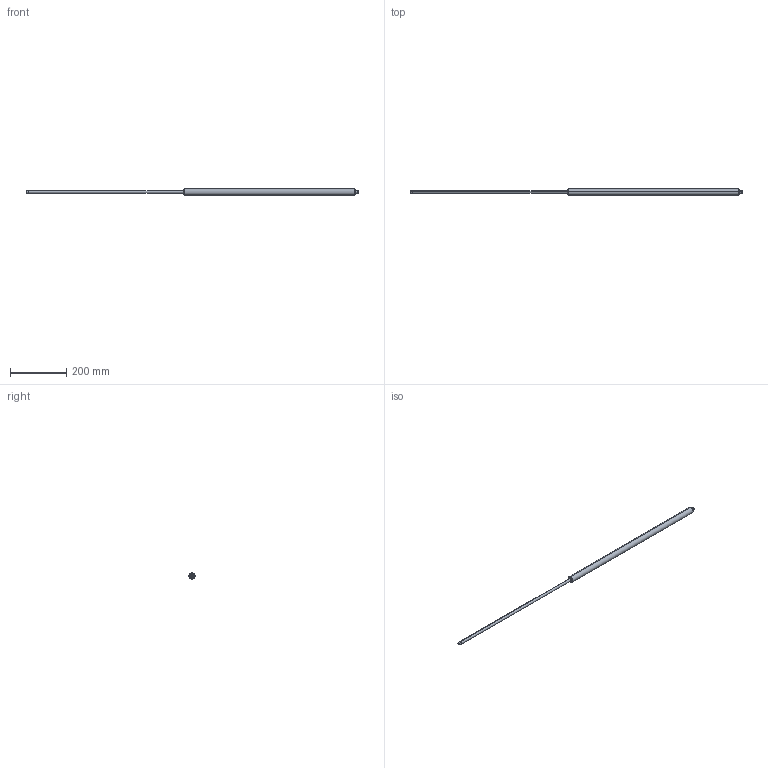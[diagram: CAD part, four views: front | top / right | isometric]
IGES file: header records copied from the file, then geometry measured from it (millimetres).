
Start section: SolidWorks IGES file using analytic representation for surfaces
Bounding box: 1181 x 22 x 22 mm (x, y, z)
Surface area: 60639.3 mm2 (no closed solid volume)
Topology: 0 solids, 0 shells, 25 faces, 336 edges, 336 vertices
Faces by surface type: revolution 16, bspline 9
